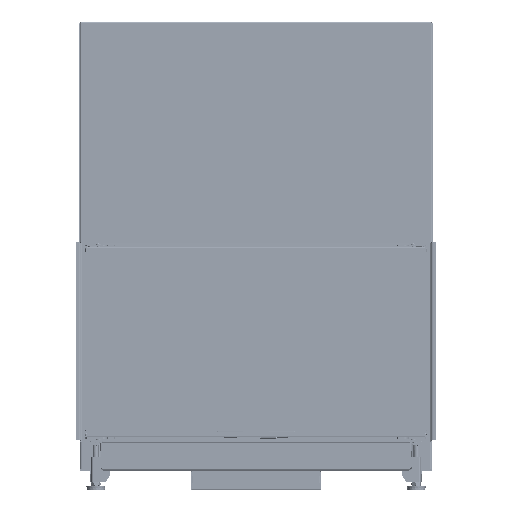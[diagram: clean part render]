
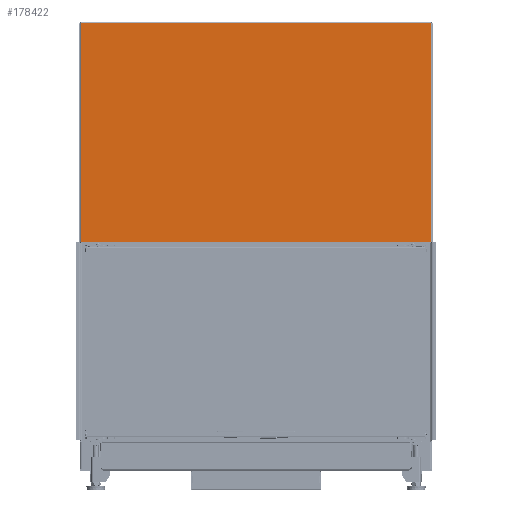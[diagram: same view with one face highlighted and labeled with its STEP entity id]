
A CAD part, front view. The second image highlights one B-rep face of the part: STEP entity #178422.
In plain terms, the highlighted planar face has unit normal (0, -1, 0).
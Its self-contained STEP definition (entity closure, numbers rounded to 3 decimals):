
#7953=FACE_OUTER_BOUND('',#17663,.T.);
#17663=EDGE_LOOP('',(#119993,#119994,#119995,#119996,#119997,#119998));
#36389=LINE('',#267506,#53959);
#36394=LINE('',#267594,#53964);
#36402=LINE('',#267813,#53972);
#36403=LINE('',#267815,#53973);
#36404=LINE('',#267819,#53974);
#36407=LINE('',#267825,#53977);
#53959=VECTOR('',#211462,10.);
#53964=VECTOR('',#211479,10.);
#53972=VECTOR('',#211501,10.);
#53973=VECTOR('',#211504,10.);
#53974=VECTOR('',#211511,10.);
#53977=VECTOR('',#211520,10.);
#71615=VERTEX_POINT('',#267487);
#71616=VERTEX_POINT('',#267498);
#71622=VERTEX_POINT('',#267587);
#71624=VERTEX_POINT('',#267593);
#71633=VERTEX_POINT('',#267804);
#71634=VERTEX_POINT('',#267811);
#89882=EDGE_CURVE('',#71616,#71615,#36389,.T.);
#89894=EDGE_CURVE('',#71624,#71615,#36394,.T.);
#89918=EDGE_CURVE('',#71633,#71634,#36402,.T.);
#89919=EDGE_CURVE('',#71622,#71624,#36403,.T.);
#89921=EDGE_CURVE('',#71634,#71622,#36404,.T.);
#89925=EDGE_CURVE('',#71616,#71633,#36407,.T.);
#119993=ORIENTED_EDGE('',*,*,#89919,.T.);
#119994=ORIENTED_EDGE('',*,*,#89894,.T.);
#119995=ORIENTED_EDGE('',*,*,#89882,.F.);
#119996=ORIENTED_EDGE('',*,*,#89925,.T.);
#119997=ORIENTED_EDGE('',*,*,#89918,.T.);
#119998=ORIENTED_EDGE('',*,*,#89921,.T.);
#167479=PLANE('',#189314);
#178422=ADVANCED_FACE('',(#7953),#167479,.T.);
#189314=AXIS2_PLACEMENT_3D('',#267824,#211518,#211519);
#211462=DIRECTION('',(1.,0.,0.));
#211479=DIRECTION('',(0.,0.,1.));
#211501=DIRECTION('',(0.,0.,-1.));
#211504=DIRECTION('',(0.,0.,1.));
#211511=DIRECTION('',(1.,0.,0.));
#211518=DIRECTION('center_axis',(0.,-1.,0.));
#211519=DIRECTION('ref_axis',(1.,0.,0.));
#211520=DIRECTION('',(0.,0.,-1.));
#267487=CARTESIAN_POINT('',(485.75,-328.496,1242.25));
#267498=CARTESIAN_POINT('',(-485.75,-328.496,1242.25));
#267506=CARTESIAN_POINT('',(0.,-328.496,1242.25));
#267587=CARTESIAN_POINT('',(485.75,-328.496,635.25));
#267593=CARTESIAN_POINT('',(485.75,-328.496,1241.57));
#267594=CARTESIAN_POINT('',(485.75,-328.496,808.846));
#267804=CARTESIAN_POINT('',(-485.75,-328.496,1241.57));
#267811=CARTESIAN_POINT('',(-485.75,-328.496,635.25));
#267813=CARTESIAN_POINT('',(-485.75,-328.496,1112.346));
#267815=CARTESIAN_POINT('',(485.75,-328.496,808.846));
#267819=CARTESIAN_POINT('',(244.25,-328.496,635.25));
#267824=CARTESIAN_POINT('Origin',(0.,-328.496,
982.441));
#267825=CARTESIAN_POINT('',(-485.75,-328.496,1112.346));
